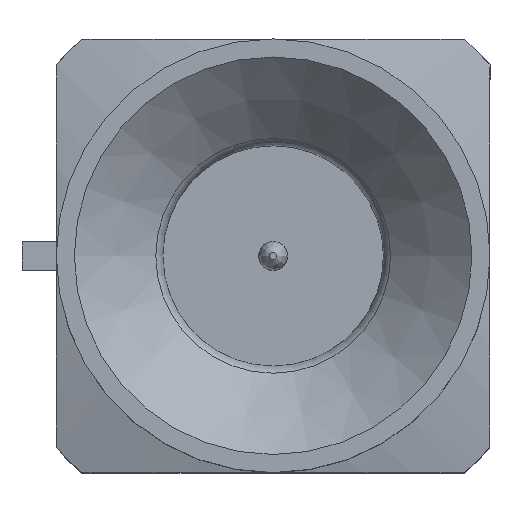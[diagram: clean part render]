
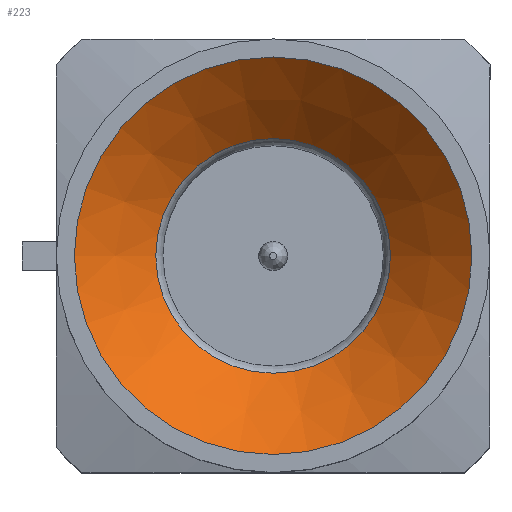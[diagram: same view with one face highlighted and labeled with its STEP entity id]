
A CAD part, top view. The second image highlights one B-rep face of the part: STEP entity #223.
In plain terms, the highlighted conical face has half-angle 47.296 degrees and reference radius 1.623 mm.
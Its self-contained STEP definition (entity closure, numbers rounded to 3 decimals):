
#51=CONICAL_SURFACE('',#1685,1.623,47.296);
#107=FACE_BOUND('',#461,.T.);
#108=FACE_BOUND('',#462,.T.);
#147=CIRCLE('',#1681,2.75);
#149=CIRCLE('',#1684,1.623);
#223=ADVANCED_FACE('',(#107,#108),#51,.F.);
#461=EDGE_LOOP('',(#720));
#462=EDGE_LOOP('',(#721));
#720=ORIENTED_EDGE('',*,*,#1234,.T.);
#721=ORIENTED_EDGE('',*,*,#1232,.F.);
#1047=VERTEX_POINT('',#2595);
#1049=VERTEX_POINT('',#2600);
#1232=EDGE_CURVE('',#1047,#1047,#147,.T.);
#1234=EDGE_CURVE('',#1049,#1049,#149,.T.);
#1681=AXIS2_PLACEMENT_3D('',#2594,#2016,#2017);
#1684=AXIS2_PLACEMENT_3D('',#2599,#2022,#2023);
#1685=AXIS2_PLACEMENT_3D('',#2601,#2024,#2025);
#2016=DIRECTION('',(0.,0.,-1.));
#2017=DIRECTION('',(-1.,0.,0.));
#2022=DIRECTION('',(0.,0.,-1.));
#2023=DIRECTION('',(-1.,0.,0.));
#2024=DIRECTION('',(0.,0.,1.));
#2025=DIRECTION('',(1.,0.,0.));
#2594=CARTESIAN_POINT('',(0.,0.,2.8));
#2595=CARTESIAN_POINT('',(-2.75,0.,2.8));
#2599=CARTESIAN_POINT('',(0.,0.,1.76));
#2600=CARTESIAN_POINT('',(-1.623,0.,1.76));
#2601=CARTESIAN_POINT('',(0.,0.,1.76));
